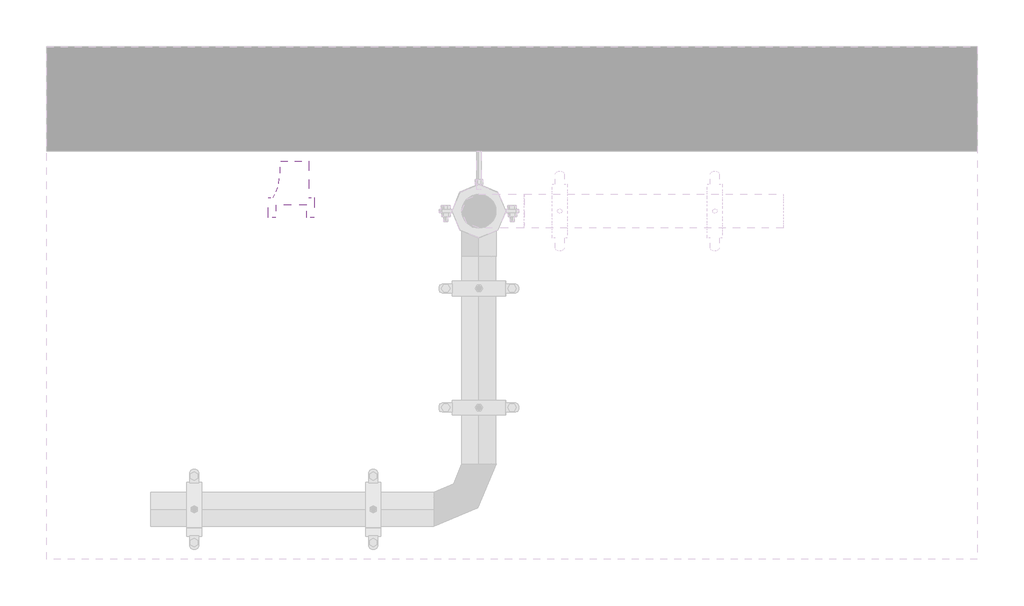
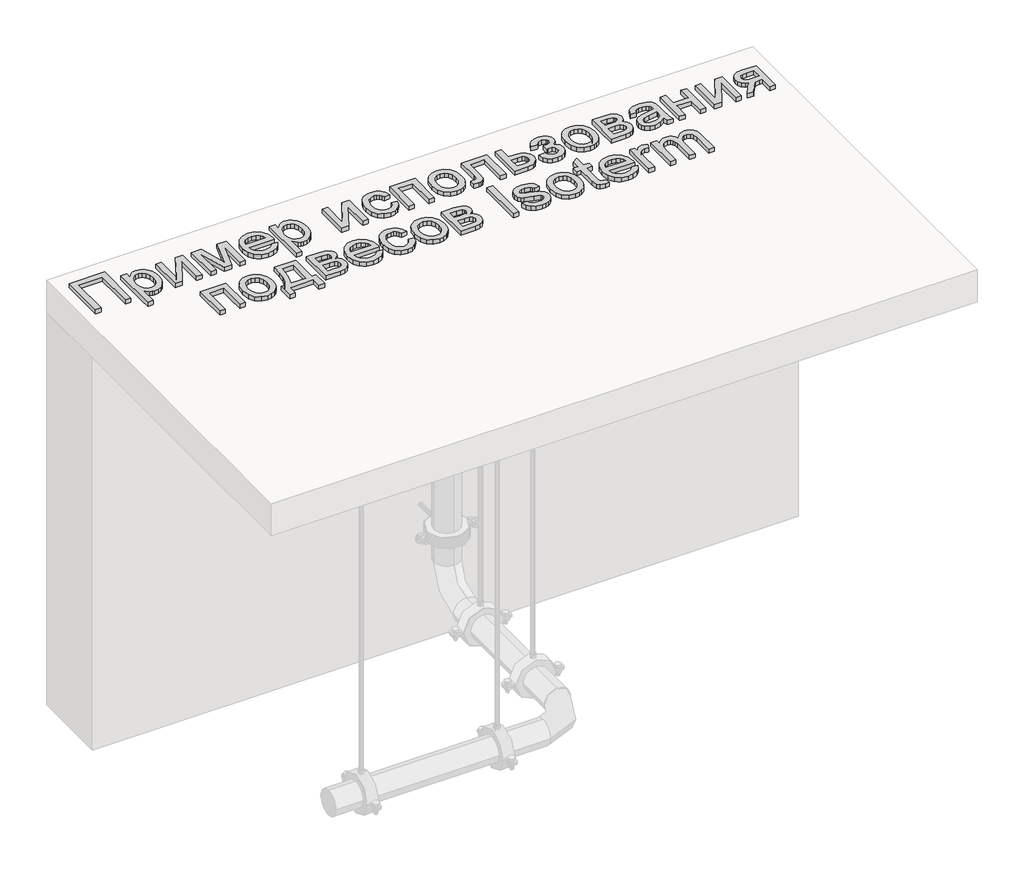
# One storey, part 10 of 10: 1 proxy.
"""IFC4 building model written with IfcOpenShell, lengths in millimetres."""

from ifc_helpers import new_model, si_unit, frame, origin, place, context, project, spatial, polyline, outline, extrude, element, save

model = new_model("IFC4")

# Units and contexts
model_context = context("Model", 3, world=origin())
ifc_project = project(units=[si_unit("LENGTHUNIT", "METRE", prefix="MILLI")], contexts=[model_context])

# Site, building, storey
site = spatial("IfcSite", under=ifc_project)
building = spatial("IfcBuilding", under=site)
storey = spatial("IfcBuildingStorey", under=building, Name="Этаж 01", Elevation=0.0)

# Proxy
placement = place(None, origin())
element("IfcBuildingElementProxy", 1, Name="200 мм Arial", ObjectType="200 мм Arial", at=placement, inside=storey, context=model_context, shape_type="SweptSolid", body=[
    extrude(outline(polyline([(18906.7385239, 683.8856703), (19063.7015085, 683.8856703), (19063.7015085, 482.97305), (19038.587431, 482.97305), (19038.587431, 658.7715928), (18931.8526015, 658.7715928), (18931.8526015, 482.97305), (18906.7385239, 482.97305), (18906.7385239, 683.8856703)])), frame((0.0, 0.0, 2000.0), z_axis=(0.0, 0.0, 1.0), x_axis=(1.0, 0.0, 0.0)), (0.0, 0.0, 1.0), 20.0),
    extrude(outline(polyline([(19104.5118845, 426.4663756), (19104.5118845, 630.5182556), (19129.6259621, 630.5182556), (19129.6259621, 605.8946874), (19146.9899923, 626.7168083), (19157.6830956, 631.9223385), (19170.4363381, 633.6575153), (19187.4202235, 631.2294941), (19202.2703934, 623.9454306), (19214.3614483, 612.2467831), (19223.0679889, 596.5750102), (19228.3287014, 578.0705458), (19230.0822722, 557.8738243), (19228.1018408, 536.3956471), (19222.1605466, 517.1860756), (19212.4484619, 501.219997), (19199.1556592, 489.4722986), (19183.6739585, 482.2434174), (19167.3951802, 479.8337904), (19155.849817, 481.4463398), (19145.5429897, 486.283988), (19129.6259621, 502.5934231), (19129.6259621, 426.4663756), (19104.5118845, 426.4663756)]), holes=[polyline([(19129.6259621, 555.5684304), (19132.3421575, 533.0540523), (19140.4907437, 517.3087029), (19152.5143535, 508.0380766), (19166.85562, 504.9478679), (19181.4298784, 508.1484412), (19193.7600566, 517.7501613), (19202.1661602, 534.0718592), (19204.9681947, 557.4323659), (19202.2336052, 579.8241166), (19194.0298367, 595.7901952), (19182.0246209, 605.3551271), (19167.8856896, 608.5434377), (19153.6915759, 605.152792), (19141.2265077, 594.9808548), (19132.5260985, 578.3464573), (19129.6259621, 555.5684304)])]), frame((0.0, 0.0, 2000.0), z_axis=(0.0, 0.0, 1.0), x_axis=(1.0, 0.0, 0.0)), (0.0, 0.0, 1.0), 20.0),
    extrude(outline(polyline([(19258.3356095, 630.5182556), (19283.449687, 630.5182556), (19283.449687, 517.995416), (19345.1557603, 630.5182556), (19377.6274778, 630.5182556), (19377.6274778, 482.97305), (19352.5134002, 482.97305), (19352.5134002, 594.8091766), (19291.1997344, 482.97305), (19258.3356095, 482.97305), (19258.3356095, 630.5182556)])), frame((0.0, 0.0, 2000.0), z_axis=(0.0, 0.0, 1.0), x_axis=(1.0, 0.0, 0.0)), (0.0, 0.0, 1.0), 20.0),
    extrude(outline(polyline([(19415.2985941, 630.5182556), (19458.5124658, 630.5182556), (19491.8180491, 512.4036097), (19527.7233318, 630.5182556), (19569.122319, 630.5182556), (19569.122319, 482.97305), (19544.0082414, 482.97305), (19544.0082414, 601.774409), (19507.906755, 482.97305), (19474.9445282, 482.97305), (19440.4126716, 607.4643172), (19440.4126716, 482.97305), (19415.2985941, 482.97305), (19415.2985941, 630.5182556)])), frame((0.0, 0.0, 2000.0), z_axis=(0.0, 0.0, 1.0), x_axis=(1.0, 0.0, 0.0)), (0.0, 0.0, 1.0), 20.0),
    extrude(outline(polyline([(19710.0946995, 526.9226857), (19734.7182677, 523.783426), (19725.8461803, 505.2299108), (19711.6888548, 491.3607595), (19692.5651225, 482.7155326), (19668.7938142, 479.8337904), (19639.3264664, 484.8063287), (19616.6526728, 499.7239436), (19602.1949103, 523.6178791), (19597.3756562, 555.5193795), (19602.2439613, 588.493869), (19616.8488765, 613.1542254), (19639.2161018, 628.5316928), (19667.3713372, 633.6575153), (19694.6497871, 628.5439555), (19716.4467953, 613.2032763), (19730.7390108, 588.5919709), (19735.5030827, 555.6665323), (19735.3559299, 548.8975036), (19622.4897337, 548.8975036), (19626.8368727, 530.0987336), (19636.9352334, 516.2786333), (19651.5094918, 507.7805593), (19669.2843235, 504.9478679), (19693.9078917, 510.1963177), (19703.0558907, 517.0021346), (19710.0946995, 526.9226857)]), holes=[polyline([(19622.4897337, 574.0115811), (19710.3890051, 574.0115811), (19706.992228, 587.2798584), (19700.3335639, 596.7712139), (19685.6918605, 605.6003818), (19667.2732353, 608.5434377), (19650.3445322, 606.1951243), (19636.3466222, 599.1501841), (19626.6161435, 588.1689066), (19622.4897337, 574.0115811)])]), frame((0.0, 0.0, 2000.0), z_axis=(0.0, 0.0, 1.0), x_axis=(1.0, 0.0, 0.0)), (0.0, 0.0, 1.0), 20.0),
    extrude(outline(polyline([(19760.6171602, 426.4663756), (19760.6171602, 630.5182556), (19785.7312377, 630.5182556), (19785.7312377, 605.8946874), (19803.0952679, 626.7168083), (19813.7883712, 631.9223385), (19826.5416137, 633.6575153), (19843.5254992, 631.2294941), (19858.3756691, 623.9454306), (19870.466724, 612.2467831), (19879.1732645, 596.5750102), (19884.433977, 578.0705458), (19886.1875479, 557.8738243), (19884.2071165, 536.3956471), (19878.2658223, 517.1860756), (19868.5537376, 501.219997), (19855.2609348, 489.4722986), (19839.7792342, 482.2434174), (19823.5004559, 479.8337904), (19811.9550926, 481.4463398), (19801.6482654, 486.283988), (19785.7312377, 502.5934231), (19785.7312377, 426.4663756), (19760.6171602, 426.4663756)]), holes=[polyline([(19785.7312377, 555.5684304), (19788.4474331, 533.0540523), (19796.5960193, 517.3087029), (19808.6196292, 508.0380766), (19822.9608957, 504.9478679), (19837.535154, 508.1484412), (19849.8653322, 517.7501613), (19858.2714358, 534.0718592), (19861.0734704, 557.4323659), (19858.3388809, 579.8241166), (19850.1351124, 595.7901952), (19838.1298966, 605.3551271), (19823.9909652, 608.5434377), (19809.7968516, 605.152792), (19797.3317833, 594.9808548), (19788.6313741, 578.3464573), (19785.7312377, 555.5684304)])]), frame((0.0, 0.0, 2000.0), z_axis=(0.0, 0.0, 1.0), x_axis=(1.0, 0.0, 0.0)), (0.0, 0.0, 1.0), 20.0),
    extrude(outline(polyline([(19992.9223774, 630.5182556), (20018.036455, 630.5182556), (20018.036455, 517.995416), (20079.7425283, 630.5182556), (20112.2142457, 630.5182556), (20112.2142457, 482.97305), (20087.1001682, 482.97305), (20087.1001682, 594.8091766), (20025.7865023, 482.97305), (19992.9223774, 482.97305), (19992.9223774, 630.5182556)])), frame((0.0, 0.0, 2000.0), z_axis=(0.0, 0.0, 1.0), x_axis=(1.0, 0.0, 0.0)), (0.0, 0.0, 1.0), 20.0),
    extrude(outline(polyline([(20244.0631528, 536.3404648), (20269.1772303, 533.2012051), (20262.1752097, 510.8646366), (20249.017297, 493.9849844), (20230.9420283, 483.3715889), (20209.1879397, 479.8337904), (20182.4735754, 484.7695405), (20161.5840095, 499.5767908), (20148.1011344, 523.6056164), (20143.6068427, 556.2060925), (20145.5259604, 578.5549238), (20151.2833136, 597.9239108), (20160.9708728, 613.565027), (20174.6806085, 624.7302455), (20191.0820141, 631.4256978), (20208.8445831, 633.6575153), (20230.0652429, 630.591832), (20247.0307342, 621.3947821), (20259.2014969, 606.556875), (20266.0379706, 586.5686199), (20240.9238931, 583.4293602), (20236.3682877, 594.3861123), (20229.2742966, 602.2403929), (20220.0343271, 606.9676765), (20209.0407869, 608.5434377), (20192.8110595, 605.4409662), (20179.9290583, 596.1335518), (20171.5229547, 580.1184222), (20168.7209202, 556.8928056), (20171.4616411, 533.3544893), (20179.6838036, 517.2841775), (20192.3328129, 508.0319453), (20208.3540738, 504.9478679), (20221.3587023, 506.873117), (20232.0211488, 512.6488643), (20239.7773276, 522.4222627), (20244.0631528, 536.3404648)])), frame((0.0, 0.0, 2000.0), z_axis=(0.0, 0.0, 1.0), x_axis=(1.0, 0.0, 0.0)), (0.0, 0.0, 1.0), 20.0),
    extrude(outline(polyline([(20291.1520482, 630.5182556), (20404.1653971, 630.5182556), (20404.1653971, 482.97305), (20379.0513196, 482.97305), (20379.0513196, 605.404178), (20316.2661257, 605.404178), (20316.2661257, 482.97305), (20291.1520482, 482.97305), (20291.1520482, 630.5182556)])), frame((0.0, 0.0, 2000.0), z_axis=(0.0, 0.0, 1.0), x_axis=(1.0, 0.0, 0.0)), (0.0, 0.0, 1.0), 20.0),
    extrude(outline(polyline([(20435.557994, 556.7456528), (20440.9903848, 592.3198417), (20447.7808733, 606.1430077), (20457.2875572, 617.3235547), (20477.4229651, 629.5740251), (20501.5314985, 633.6575153), (20527.9147689, 628.684977), (20548.9882759, 613.7673621), (20562.8022448, 590.0818929), (20567.4069011, 558.805792), (20565.3712874, 533.434197), (20559.2644463, 514.1203923), (20549.2641874, 499.6564985), (20535.5483203, 488.8346365), (20519.2572793, 482.0840019), (20501.5314985, 479.8337904), (20474.829397, 484.7879346), (20453.7804155, 499.6503672), (20440.1135994, 523.832477), (20435.557994, 556.7456528)]), holes=[polyline([(20460.6720716, 556.7947037), (20463.5783393, 534.0657278), (20472.2971426, 517.8727887), (20485.4182671, 508.1790981), (20501.5314985, 504.9478679), (20517.5711535, 508.1974922), (20530.6677525, 517.9463651), (20539.3865558, 534.353902), (20542.2928236, 557.5795187), (20539.3681617, 579.646307), (20530.5941761, 595.618517), (20517.479183, 605.3122075), (20501.5314985, 608.5434377), (20485.4182671, 605.3244703), (20472.2971426, 595.6675679), (20463.5783393, 579.5114169), (20460.6720716, 556.7947037)])]), frame((0.0, 0.0, 2000.0), z_axis=(0.0, 0.0, 1.0), x_axis=(1.0, 0.0, 0.0)), (0.0, 0.0, 1.0), 20.0),
    extrude(outline(polyline([(20608.2172771, 630.5182556), (20721.230626, 630.5182556), (20721.230626, 483.1202028), (20696.1165485, 483.1202028), (20696.1165485, 605.404178), (20633.3313546, 605.404178), (20633.3313546, 535.0160896), (20631.6390975, 502.5443722), (20622.3439457, 488.8346365), (20613.048794, 484.4384467), (20600.3691279, 482.97305), (20579.9639399, 484.2483743), (20579.9639399, 508.0871276), (20591.1966034, 508.0871276), (20602.5518944, 509.632232), (20607.0891056, 514.5373252), (20608.2172771, 536.4385667), (20608.2172771, 630.5182556)])), frame((0.0, 0.0, 2000.0), z_axis=(0.0, 0.0, 1.0), x_axis=(1.0, 0.0, 0.0)), (0.0, 0.0, 1.0), 20.0),
    extrude(outline(polyline([(20758.9017423, 630.5182556), (20784.0158199, 630.5182556), (20784.0158199, 577.1508408), (20812.9558701, 577.1508408), (20838.0454222, 574.0054497), (20856.6112002, 564.5692766), (20868.0891185, 549.6026107), (20871.9150912, 529.8657417), (20868.6593356, 511.8947062), (20858.8920686, 496.7318367), (20841.9633655, 486.4127467), (20817.2233013, 482.97305), (20758.9017423, 482.97305), (20758.9017423, 630.5182556)]), holes=[polyline([(20784.0158199, 508.0871276), (20807.4621657, 508.0871276), (20825.6539303, 509.4053714), (20837.7511166, 513.3601028), (20844.5385394, 520.1107375), (20846.8010137, 529.8166908), (20845.1271506, 538.0204593), (20840.1055614, 545.2677346), (20829.345013, 550.3445061), (20810.4542726, 552.0367633), (20784.0158199, 552.0367633), (20784.0158199, 508.0871276)])]), frame((0.0, 0.0, 2000.0), z_axis=(0.0, 0.0, 1.0), x_axis=(1.0, 0.0, 0.0)), (0.0, 0.0, 1.0), 20.0),
    extrude(outline(polyline([(20937.8395448, 548.8975036), (20937.8395448, 574.0115811), (20957.6561216, 574.9925998), (20967.6625118, 580.2165241), (20972.3714014, 591.1303566), (20970.7956402, 598.2733987), (20966.0683565, 603.8100227), (20949.8079723, 608.5434377), (20933.0080279, 603.8345482), (20922.1432463, 589.7078796), (20893.8899091, 592.8471393), (20901.382439, 610.7016788), (20912.7745182, 623.4549213), (20928.0661464, 631.1068668), (20947.2573238, 633.6575153), (20968.251123, 630.5489124), (20984.1436252, 621.2231038), (20994.1500155, 607.5808132), (20997.4854789, 591.5227641), (20992.7398012, 575.9245675), (20978.502768, 563.858038), (20995.1065087, 548.2107905), (21000.6247386, 525.6964124), (20997.1237283, 507.2103422), (20986.6206973, 492.5625074), (20969.8268843, 483.0159696), (20947.4535276, 479.8337904), (20925.5706802, 482.7768463), (20908.8259181, 491.6060142), (20897.2192411, 506.321294), (20890.7506494, 526.9226857), (20919.0039866, 530.0619454), (20923.2346296, 519.4424185), (20930.3347521, 511.5206929), (20939.482751, 506.5910741), (20949.8570233, 504.9478679), (20959.9615154, 506.5236291), (20968.2020721, 511.2509127), (20973.6835138, 518.430743), (20975.5106611, 527.3641441), (20970.9734498, 540.558845), (20961.3104161, 547.6221793), (20942.744638, 549.0446564), (20937.8395448, 548.8975036)])), frame((0.0, 0.0, 2000.0), z_axis=(0.0, 0.0, 1.0), x_axis=(1.0, 0.0, 0.0)), (0.0, 0.0, 1.0), 20.0),
    extrude(outline(polyline([(21025.7388162, 556.7456528), (21031.1712069, 592.3198417), (21037.9616954, 606.1430077), (21047.4683793, 617.3235547), (21067.6037872, 629.5740251), (21091.7123206, 633.6575153), (21118.095591, 628.684977), (21139.169098, 613.7673621), (21152.9830669, 590.0818929), (21157.5877232, 558.805792), (21155.5521095, 533.434197), (21149.4452684, 514.1203923), (21139.4450095, 499.6564985), (21125.7291424, 488.8346365), (21109.4381014, 482.0840019), (21091.7123206, 479.8337904), (21065.0102191, 484.7879346), (21043.9612376, 499.6503672), (21030.2944215, 523.832477), (21025.7388162, 556.7456528)]), holes=[polyline([(21050.8528937, 556.7947037), (21053.7591615, 534.0657278), (21062.4779647, 517.8727887), (21075.5990892, 508.1790981), (21091.7123206, 504.9478679), (21107.7519756, 508.1974922), (21120.8485746, 517.9463651), (21129.5673779, 534.353902), (21132.4736457, 557.5795187), (21129.5489838, 579.646307), (21120.7749982, 595.618517), (21107.6600051, 605.3122075), (21091.7123206, 608.5434377), (21075.5990892, 605.3244703), (21062.4779647, 595.6675679), (21053.7591615, 579.5114169), (21050.8528937, 556.7947037)])]), frame((0.0, 0.0, 2000.0), z_axis=(0.0, 0.0, 1.0), x_axis=(1.0, 0.0, 0.0)), (0.0, 0.0, 1.0), 20.0),
    extrude(outline(polyline([(21185.8410605, 630.5182556), (21241.1705125, 630.5182556), (21271.5085144, 627.1582667), (21288.578239, 614.8464826), (21293.930922, 605.0056392), (21295.7151497, 593.3866995), (21291.3986676, 575.949093), (21278.4001704, 563.5146815), (21287.6953222, 558.2968886), (21295.2736913, 549.9030477), (21300.3136746, 538.9953465), (21301.9936691, 526.2359727), (21297.7385007, 507.0938462), (21287.6217458, 493.6171024), (21271.6066163, 485.6340631), (21249.6563239, 482.97305), (21185.8410605, 482.97305), (21185.8410605, 630.5182556)]), holes=[polyline([(21210.955138, 574.0115811), (21235.7749099, 574.0115811), (21256.2536743, 575.2869054), (21266.2110137, 580.3882024), (21270.6010721, 589.6097777), (21268.675823, 597.1023077), (21262.9000757, 601.9215618), (21236.5597249, 605.404178), (21210.955138, 605.404178), (21210.955138, 574.0115811)]), polyline([(21210.955138, 508.0871276), (21241.7591237, 508.0871276), (21258.5468054, 509.2214304), (21269.0804932, 512.6243389), (21274.7336132, 518.8108877), (21276.8795915, 528.2961118), (21272.5876349, 540.3871668), (21261.4040223, 547.4259756), (21239.3065771, 548.8975036), (21210.955138, 548.8975036), (21210.955138, 508.0871276)])]), frame((0.0, 0.0, 2000.0), z_axis=(0.0, 0.0, 1.0), x_axis=(1.0, 0.0, 0.0)), (0.0, 0.0, 1.0), 20.0),
    extrude(outline(polyline([(21427.5640568, 501.8086082), (21403.2102687, 484.7879346), (21376.3058321, 479.8337904), (21355.3181643, 482.8136345), (21339.8364636, 491.753167), (21330.2899259, 505.3280126), (21327.1077466, 522.2137962), (21331.914738, 542.0794239), (21344.5453532, 556.5003981), (21362.1301125, 564.7409548), (21383.8596757, 568.5178767), (21427.416904, 577.1508408), (21427.5640568, 582.7426471), (21425.8350114, 593.9507853), (21420.6478752, 601.2838997), (21409.0473297, 606.7285532), (21392.8850473, 608.5434377), (21377.9245129, 607.3355585), (21367.4766642, 603.7119209), (21360.3520162, 597.0103372), (21355.3610838, 586.5686199), (21330.2470063, 589.7078796), (21341.1117879, 614.2333459), (21350.3701514, 622.4861653), (21362.9885039, 628.6052692), (21396.1224089, 633.6575153), (21426.5585126, 629.1938804), (21443.7508645, 617.9857423), (21451.451861, 600.9405432), (21452.6781343, 578.9657253), (21452.6781343, 547.7202812), (21453.9534585, 504.0894766), (21458.9566537, 482.97305), (21433.8425761, 482.97305), (21427.5640568, 501.8086082)]), holes=[polyline([(21427.5640568, 552.0367633), (21387.0479863, 544.3357668), (21365.4410505, 540.2645394), (21355.6553894, 533.6426635), (21352.2218241, 523.9796298), (21354.0918909, 516.5116253), (21359.7020914, 510.3925214), (21368.9297981, 506.3090313), (21381.6523838, 504.9478679), (21395.1413902, 506.4500527), (21407.0607669, 510.9566071), (21423.4437784, 525.5002087), (21427.416904, 544.924378), (21427.5640568, 552.0367633)])]), frame((0.0, 0.0, 2000.0), z_axis=(0.0, 0.0, 1.0), x_axis=(1.0, 0.0, 0.0)), (0.0, 0.0, 1.0), 20.0),
    extrude(outline(polyline([(21487.2099909, 630.5182556), (21512.3240684, 630.5182556), (21512.3240684, 574.0115811), (21578.248522, 574.0115811), (21578.248522, 630.5182556), (21603.3625995, 630.5182556), (21603.3625995, 482.97305), (21578.248522, 482.97305), (21578.248522, 548.8975036), (21512.3240684, 548.8975036), (21512.3240684, 482.97305), (21487.2099909, 482.97305), (21487.2099909, 630.5182556)])), frame((0.0, 0.0, 2000.0), z_axis=(0.0, 0.0, 1.0), x_axis=(1.0, 0.0, 0.0)), (0.0, 0.0, 1.0), 20.0),
    extrude(outline(polyline([(21641.0337158, 630.5182556), (21666.1477934, 630.5182556), (21666.1477934, 517.995416), (21727.8538667, 630.5182556), (21760.3255841, 630.5182556), (21760.3255841, 482.97305), (21735.2115066, 482.97305), (21735.2115066, 594.8091766), (21673.8978407, 482.97305), (21641.0337158, 482.97305), (21641.0337158, 630.5182556)])), frame((0.0, 0.0, 2000.0), z_axis=(0.0, 0.0, 1.0), x_axis=(1.0, 0.0, 0.0)), (0.0, 0.0, 1.0), 20.0),
    extrude(outline(polyline([(21911.0100493, 630.5182556), (21911.0100493, 482.97305), (21885.8959718, 482.97305), (21885.8959718, 539.4797245), (21872.2107616, 539.4797245), (21853.5714072, 536.2914139), (21836.0602242, 514.8561563), (21816.0474437, 482.97305), (21787.0092915, 482.97305), (21812.2214709, 523.2929167), (21823.3560326, 537.7629419), (21833.6076776, 544.188614), (21816.4398511, 549.4493266), (21804.3733217, 559.4434541), (21797.236411, 572.7362569), (21794.8574407, 587.8929951), (21798.107065, 605.085347), (21807.8559379, 618.6969808), (21823.7607028, 627.5629369), (21845.4780033, 630.5182556), (21911.0100493, 630.5182556)]), holes=[polyline([(21885.8959718, 605.404178), (21852.7865922, 605.404178), (21835.6862108, 603.9510442), (21825.9802575, 599.5916425), (21819.9715183, 585.9800087), (21822.1849416, 576.4089455), (21828.8252116, 569.7686754), (21841.0940762, 565.8875204), (21860.1932831, 564.593802), (21885.8959718, 564.593802), (21885.8959718, 605.404178)])]), frame((0.0, 0.0, 2000.0), z_axis=(0.0, 0.0, 1.0), x_axis=(1.0, 0.0, 0.0)), (0.0, 0.0, 1.0), 20.0),
    extrude(outline(polyline([(19314.8422839, 386.5686199), (19427.8556328, 386.5686199), (19427.8556328, 239.0234144), (19402.7415553, 239.0234144), (19402.7415553, 361.4545423), (19339.9563615, 361.4545423), (19339.9563615, 239.0234144), (19314.8422839, 239.0234144), (19314.8422839, 386.5686199)])), frame((0.0, 0.0, 2000.0), z_axis=(0.0, 0.0, 1.0), x_axis=(1.0, 0.0, 0.0)), (0.0, 0.0, 1.0), 20.0),
    extrude(outline(polyline([(19459.2482298, 312.7960171), (19464.6806206, 348.3702061), (19471.471109, 362.193372), (19480.9777929, 373.373919), (19501.1132008, 385.6243894), (19525.2217342, 389.7078796), (19551.6050046, 384.7353413), (19572.6785116, 369.8177264), (19586.4924805, 346.1322572), (19591.0971368, 314.8561563), (19589.0615231, 289.4845614), (19582.954682, 270.1707566), (19572.9544231, 255.7068628), (19559.238556, 244.8850008), (19542.947515, 238.1343662), (19525.2217342, 235.8841547), (19498.5196327, 240.8382989), (19477.4706513, 255.7007315), (19463.8038351, 279.8828413), (19459.2482298, 312.7960171)]), holes=[polyline([(19484.3623073, 312.8450681), (19487.2685751, 290.1160921), (19495.9873783, 273.923153), (19509.1085028, 264.2294624), (19525.2217342, 260.9982322), (19541.2613892, 264.2478565), (19554.3579882, 273.9967294), (19563.0767915, 290.4042663), (19565.9830593, 313.629883), (19563.0583974, 335.6966713), (19554.2844118, 351.6688813), (19541.1694187, 361.3625718), (19525.2217342, 364.593802), (19509.1085028, 361.3748346), (19495.9873783, 351.7179322), (19487.2685751, 335.5617813), (19484.3623073, 312.8450681)])]), frame((0.0, 0.0, 2000.0), z_axis=(0.0, 0.0, 1.0), x_axis=(1.0, 0.0, 0.0)), (0.0, 0.0, 1.0), 20.0),
    extrude(outline(polyline([(19641.3252919, 386.5686199), (19735.5030827, 386.5686199), (19735.5030827, 264.1374919), (19754.3386408, 264.1374919), (19754.3386408, 198.2130384), (19729.2245633, 198.2130384), (19729.2245633, 239.0234144), (19625.6289934, 239.0234144), (19625.6289934, 198.2130384), (19600.5149159, 198.2130384), (19600.5149159, 264.1374919), (19616.2112144, 264.1374919), (19627.6216876, 284.7572777), (19635.6108582, 312.0357277), (19640.1787264, 345.9728417), (19641.3252919, 386.5686199)]), holes=[polyline([(19663.3001097, 361.4545423), (19657.4139978, 304.2366294), (19644.4645516, 264.1374919), (19710.3890051, 264.1374919), (19710.3890051, 361.4545423), (19663.3001097, 361.4545423)])]), frame((0.0, 0.0, 2000.0), z_axis=(0.0, 0.0, 1.0), x_axis=(1.0, 0.0, 0.0)), (0.0, 0.0, 1.0), 20.0),
    extrude(outline(polyline([(19782.5919781, 386.5686199), (19837.9214301, 386.5686199), (19868.259432, 383.208631), (19885.3291566, 370.8968469), (19890.6818396, 361.0560035), (19892.4660673, 349.4370638), (19888.1495852, 331.9994573), (19875.151088, 319.5650458), (19884.4462398, 314.3472529), (19892.0246089, 305.953412), (19897.0645922, 295.0457109), (19898.7445867, 282.286337), (19894.4894182, 263.1442105), (19884.3726634, 249.6674667), (19868.3575339, 241.6844275), (19846.4072415, 239.0234144), (19782.5919781, 239.0234144), (19782.5919781, 386.5686199)]), holes=[polyline([(19807.7060556, 330.0619454), (19832.5258275, 330.0619454), (19853.0045919, 331.3372697), (19862.9619313, 336.4385667), (19867.3519897, 345.660142), (19865.4267406, 353.152672), (19859.6509933, 357.9719261), (19833.3106425, 361.4545423), (19807.7060556, 361.4545423), (19807.7060556, 330.0619454)]), polyline([(19807.7060556, 264.1374919), (19838.5100413, 264.1374919), (19855.297723, 265.2717947), (19865.8314108, 268.6747032), (19871.4845308, 274.861252), (19873.6305091, 284.3464762), (19869.3385525, 296.4375311), (19858.1549399, 303.4763399), (19836.0574947, 304.9478679), (19807.7060556, 304.9478679), (19807.7060556, 264.1374919)])]), frame((0.0, 0.0, 2000.0), z_axis=(0.0, 0.0, 1.0), x_axis=(1.0, 0.0, 0.0)), (0.0, 0.0, 1.0), 20.0),
    extrude(outline(polyline([(20033.4384478, 282.97305), (20058.062016, 279.8337904), (20049.1899286, 261.2802751), (20035.0326031, 247.4111238), (20015.9088708, 238.765897), (19992.1375625, 235.8841547), (19962.6702147, 240.856693), (19939.9964211, 255.7743079), (19925.5386586, 279.6682435), (19920.7194045, 311.5697438), (19925.5877096, 344.5442333), (19940.1926248, 369.2045897), (19962.5598501, 384.5820571), (19990.7150855, 389.7078796), (20017.9935354, 384.5943198), (20039.7905436, 369.2536406), (20054.0827591, 344.6423352), (20058.846831, 311.7168966), (20058.6996782, 304.9478679), (19945.833482, 304.9478679), (19950.180621, 286.1490979), (19960.2789817, 272.3289976), (19974.8532401, 263.8309236), (19992.6280718, 260.9982322), (20017.25164, 266.246682), (20026.399639, 273.0524989), (20033.4384478, 282.97305)]), holes=[polyline([(19945.833482, 330.0619454), (20033.7327534, 330.0619454), (20030.3359763, 343.3302227), (20023.6773122, 352.8215782), (20009.0356088, 361.6507461), (19990.6169836, 364.593802), (19973.6882804, 362.2454886), (19959.6903705, 355.2005484), (19949.9598918, 344.2192709), (19945.833482, 330.0619454)])]), frame((0.0, 0.0, 2000.0), z_axis=(0.0, 0.0, 1.0), x_axis=(1.0, 0.0, 0.0)), (0.0, 0.0, 1.0), 20.0),
    extrude(outline(polyline([(20178.1386993, 292.3908291), (20203.2527768, 289.2515694), (20196.2507562, 266.915001), (20183.0928435, 250.0353487), (20165.0175748, 239.4219532), (20143.2634861, 235.8841547), (20116.5491219, 240.8199048), (20095.6595559, 255.6271551), (20082.1766808, 279.6559807), (20077.6823891, 312.2564569), (20079.6015069, 334.6052881), (20085.3588601, 353.9742751), (20095.0464193, 369.6153913), (20108.756155, 380.7806098), (20125.1575606, 387.4760621), (20142.9201296, 389.7078796), (20164.1407893, 386.6421963), (20181.1062807, 377.4451464), (20193.2770434, 362.6072393), (20200.1135171, 342.6189842), (20174.9994396, 339.4797245), (20170.4438342, 350.4364766), (20163.3498431, 358.2907572), (20154.1098736, 363.0180408), (20143.1163333, 364.593802), (20126.886606, 361.4913305), (20114.0046048, 352.1839161), (20105.5985012, 336.1687865), (20102.7964667, 312.9431699), (20105.5371875, 289.4048536), (20113.7593501, 273.3345418), (20126.4083594, 264.0823096), (20142.4296203, 260.9982322), (20155.4342488, 262.9234813), (20166.0966953, 268.6992286), (20173.852874, 278.472627), (20178.1386993, 292.3908291)])), frame((0.0, 0.0, 2000.0), z_axis=(0.0, 0.0, 1.0), x_axis=(1.0, 0.0, 0.0)), (0.0, 0.0, 1.0), 20.0),
    extrude(outline(polyline([(20218.9490753, 312.7960171), (20224.3814661, 348.3702061), (20231.1719546, 362.193372), (20240.6786384, 373.373919), (20260.8140463, 385.6243894), (20284.9225797, 389.7078796), (20311.3058502, 384.7353413), (20332.3793571, 369.8177264), (20346.193326, 346.1322572), (20350.7979823, 314.8561563), (20348.7623686, 289.4845614), (20342.6555275, 270.1707566), (20332.6552686, 255.7068628), (20318.9394016, 244.8850008), (20302.6483605, 238.1343662), (20284.9225797, 235.8841547), (20258.2204782, 240.8382989), (20237.1714968, 255.7007315), (20223.5046806, 279.8828413), (20218.9490753, 312.7960171)]), holes=[polyline([(20244.0631528, 312.8450681), (20246.9694206, 290.1160921), (20255.6882238, 273.923153), (20268.8093483, 264.2294624), (20284.9225797, 260.9982322), (20300.9622347, 264.2478565), (20314.0588337, 273.9967294), (20322.777637, 290.4042663), (20325.6839048, 313.629883), (20322.7592429, 335.6966713), (20313.9852573, 351.6688813), (20300.8702642, 361.3625718), (20284.9225797, 364.593802), (20268.8093483, 361.3748346), (20255.6882238, 351.7179322), (20246.9694206, 335.5617813), (20244.0631528, 312.8450681)])]), frame((0.0, 0.0, 2000.0), z_axis=(0.0, 0.0, 1.0), x_axis=(1.0, 0.0, 0.0)), (0.0, 0.0, 1.0), 20.0),
    extrude(outline(polyline([(20379.0513196, 386.5686199), (20434.3807716, 386.5686199), (20464.7187735, 383.208631), (20481.7884981, 370.8968469), (20487.1411811, 361.0560035), (20488.9254088, 349.4370638), (20484.6089267, 331.9994573), (20471.6104295, 319.5650458), (20480.9055813, 314.3472529), (20488.4839504, 305.953412), (20493.5239337, 295.0457109), (20495.2039282, 282.286337), (20490.9487598, 263.1442105), (20480.8320049, 249.6674667), (20464.8168754, 241.6844275), (20442.866583, 239.0234144), (20379.0513196, 239.0234144), (20379.0513196, 386.5686199)]), holes=[polyline([(20404.1653971, 330.0619454), (20428.985169, 330.0619454), (20449.4639334, 331.3372697), (20459.4212728, 336.4385667), (20463.8113313, 345.660142), (20461.8860821, 353.152672), (20456.1103348, 357.9719261), (20429.769984, 361.4545423), (20404.1653971, 361.4545423), (20404.1653971, 330.0619454)]), polyline([(20404.1653971, 264.1374919), (20434.9693828, 264.1374919), (20451.7570645, 265.2717947), (20462.2907523, 268.6747032), (20467.9438723, 274.861252), (20470.0898506, 284.3464762), (20465.797894, 296.4375311), (20454.6142814, 303.4763399), (20432.5168362, 304.9478679), (20404.1653971, 304.9478679), (20404.1653971, 264.1374919)])]), frame((0.0, 0.0, 2000.0), z_axis=(0.0, 0.0, 1.0), x_axis=(1.0, 0.0, 0.0)), (0.0, 0.0, 1.0), 20.0),
    extrude(outline(polyline([(20611.3565368, 239.0234144), (20611.3565368, 439.9360347), (20636.4706143, 439.9360347), (20636.4706143, 239.0234144), (20611.3565368, 239.0234144)])), frame((0.0, 0.0, 2000.0), z_axis=(0.0, 0.0, 1.0), x_axis=(1.0, 0.0, 0.0)), (0.0, 0.0, 1.0), 20.0),
    extrude(outline(polyline([(20674.1417306, 282.97305), (20699.2558082, 286.1123097), (20703.216671, 275.3701555), (20710.8808792, 267.4729553), (20722.2974838, 262.616913), (20737.5155357, 260.9982322), (20752.5496465, 262.4820229), (20763.1201225, 266.9333951), (20769.3741164, 273.3835927), (20771.4587811, 280.8638599), (20769.3618537, 287.2650067), (20763.0710716, 292.1455745), (20737.2212301, 299.3070106), (20699.402961, 311.5942693), (20689.8318977, 317.7685554), (20682.8973221, 325.9416671), (20677.2809903, 346.1997023), (20681.7936761, 364.9126331), (20694.1054602, 379.21098), (20710.0715388, 386.6421963), (20731.6784747, 389.7078796), (20762.2372057, 384.7782608), (20773.6660731, 378.9779881), (20781.6613751, 371.4364072), (20790.2943392, 348.8975036), (20765.1802617, 345.7582439), (20762.0103452, 353.6615754), (20755.7379572, 359.6151324), (20733.640512, 364.593802), (20719.2195378, 363.4043169), (20709.605555, 359.8358616), (20704.1976896, 354.6855136), (20702.3950679, 348.7503508), (20705.3871748, 341.4417618), (20714.7559029, 335.8990064), (20736.3873642, 330.5524548), (20773.2491401, 318.73118), (20790.3679156, 305.3402754), (20795.0216229, 295.4933006), (20796.5728586, 283.5126103), (20794.7518427, 271.1272498), (20789.2887951, 259.4776533), (20780.3921822, 249.4773944), (20768.2704705, 242.0400467), (20753.6287671, 237.4231277), (20737.1721791, 235.8841547), (20711.8496351, 238.8517361), (20693.3696962, 247.7544804), (20681.0333867, 262.4942856), (20674.1417306, 282.97305)])), frame((0.0, 0.0, 2000.0), z_axis=(0.0, 0.0, 1.0), x_axis=(1.0, 0.0, 0.0)), (0.0, 0.0, 1.0), 20.0),
    extrude(outline(polyline([(20818.5476765, 312.7960171), (20823.9800673, 348.3702061), (20830.7705558, 362.193372), (20840.2772396, 373.373919), (20860.4126475, 385.6243894), (20884.5211809, 389.7078796), (20910.9044514, 384.7353413), (20931.9779583, 369.8177264), (20945.7919272, 346.1322572), (20950.3965835, 314.8561563), (20948.3609698, 289.4845614), (20942.2541287, 270.1707566), (20932.2538698, 255.7068628), (20918.5380028, 244.8850008), (20902.2469617, 238.1343662), (20884.5211809, 235.8841547), (20857.8190795, 240.8382989), (20836.770098, 255.7007315), (20823.1032818, 279.8828413), (20818.5476765, 312.7960171)]), holes=[polyline([(20843.661754, 312.8450681), (20846.5680218, 290.1160921), (20855.2868251, 273.923153), (20868.4079495, 264.2294624), (20884.5211809, 260.9982322), (20900.5608359, 264.2478565), (20913.657435, 273.9967294), (20922.3762382, 290.4042663), (20925.282506, 313.629883), (20922.3578441, 335.6966713), (20913.5838586, 351.6688813), (20900.4688654, 361.3625718), (20884.5211809, 364.593802), (20868.4079495, 361.3748346), (20855.2868251, 351.7179322), (20846.5680218, 335.5617813), (20843.661754, 312.8450681)])]), frame((0.0, 0.0, 2000.0), z_axis=(0.0, 0.0, 1.0), x_axis=(1.0, 0.0, 0.0)), (0.0, 0.0, 1.0), 20.0),
    extrude(outline(polyline([(21032.0173355, 259.9681626), (21035.1565952, 238.2876504), (21016.370088, 235.8841547), (20995.3272379, 240.0534839), (20984.8303383, 250.9918419), (20981.7891805, 279.4904338), (20981.7891805, 361.4545423), (20962.9536223, 361.4545423), (20962.9536223, 386.5686199), (20981.7891805, 386.5686199), (20981.7891805, 422.4248517), (21006.903258, 437.1891824), (21006.903258, 386.5686199), (21032.0173355, 386.5686199), (21032.0173355, 361.4545423), (21006.903258, 361.4545423), (21006.903258, 280.2261978), (21008.2276332, 267.2767516), (21012.5195898, 262.6904894), (21021.0789775, 260.9982322), (21032.0173355, 259.9681626)])), frame((0.0, 0.0, 2000.0), z_axis=(0.0, 0.0, 1.0), x_axis=(1.0, 0.0, 0.0)), (0.0, 0.0, 1.0), 20.0),
    extrude(outline(polyline([(21160.4326773, 282.97305), (21185.0562455, 279.8337904), (21176.1841581, 261.2802751), (21162.0268326, 247.4111238), (21142.9031002, 238.765897), (21119.131792, 235.8841547), (21089.6644442, 240.856693), (21066.9906505, 255.7743079), (21052.5328881, 279.6682435), (21047.713634, 311.5697438), (21052.5819391, 344.5442333), (21067.1868543, 369.2045897), (21089.5540796, 384.5820571), (21117.7093149, 389.7078796), (21144.9877649, 384.5943198), (21166.7847731, 369.2536406), (21181.0769886, 344.6423352), (21185.8410605, 311.7168966), (21185.6939077, 304.9478679), (21072.8277115, 304.9478679), (21077.1748504, 286.1490979), (21087.2732112, 272.3289976), (21101.8474696, 263.8309236), (21119.6223013, 260.9982322), (21144.2458695, 266.246682), (21153.3938685, 273.0524989), (21160.4326773, 282.97305)]), holes=[polyline([(21072.8277115, 330.0619454), (21160.7269829, 330.0619454), (21157.3302058, 343.3302227), (21150.6715417, 352.8215782), (21136.0298383, 361.6507461), (21117.6112131, 364.593802), (21100.6825099, 362.2454886), (21086.6846, 355.2005484), (21076.9541212, 344.2192709), (21072.8277115, 330.0619454)])]), frame((0.0, 0.0, 2000.0), z_axis=(0.0, 0.0, 1.0), x_axis=(1.0, 0.0, 0.0)), (0.0, 0.0, 1.0), 20.0),
    extrude(outline(polyline([(21210.955138, 239.0234144), (21210.955138, 386.5686199), (21232.9299558, 386.5686199), (21232.9299558, 364.7409548), (21248.5281524, 384.8518372), (21264.2244509, 389.7078796), (21276.7324387, 387.7703677), (21289.4366303, 381.9578322), (21281.0489208, 359.4434541), (21263.390585, 364.593802), (21249.19034, 359.6396578), (21240.1404429, 345.9053967), (21236.0692155, 316.5729389), (21236.0692155, 239.0234144), (21210.955138, 239.0234144)])), frame((0.0, 0.0, 2000.0), z_axis=(0.0, 0.0, 1.0), x_axis=(1.0, 0.0, 0.0)), (0.0, 0.0, 1.0), 20.0),
    extrude(outline(polyline([(21305.1329288, 239.0234144), (21305.1329288, 386.5686199), (21330.2470063, 386.5686199), (21330.2470063, 362.2884082), (21337.8008499, 373.441364), (21347.5129346, 382.1785614), (21359.0521665, 387.82555), (21372.0874519, 389.7078796), (21386.054705, 387.7887618), (21397.2505803, 382.0314086), (21405.6137644, 372.8159646), (21411.0829434, 360.5225746), (21420.2370737, 373.2911455), (21430.678791, 382.4115533), (21442.4080953, 387.883798), (21455.4249865, 389.7078796), (21474.3034642, 386.6728531), (21488.264586, 377.5677737), (21496.8914187, 362.1473868), (21499.7670297, 340.1664376), (21499.7670297, 239.0234144), (21474.6529521, 239.0234144), (21474.6529521, 329.3752324), (21472.3230328, 350.3445061), (21463.8862724, 360.6697274), (21449.5388746, 364.593802), (21435.9333721, 362.0799417), (21424.84173, 354.5383608), (21417.465696, 341.4540245), (21415.007018, 322.3118981), (21415.007018, 239.0234144), (21389.8929404, 239.0234144), (21389.8929404, 332.1711355), (21388.4398066, 346.3713805), (21384.0804049, 356.5003981), (21376.4100653, 362.5704511), (21365.0241176, 364.593802), (21346.4338141, 359.1981994), (21339.0761742, 352.5517981), (21334.072979, 343.4037991), (21330.2470063, 313.4336792), (21330.2470063, 239.0234144), (21305.1329288, 239.0234144)])), frame((0.0, 0.0, 2000.0), z_axis=(0.0, 0.0, 1.0), x_axis=(1.0, 0.0, 0.0)), (0.0, 0.0, 1.0), 20.0),
])

save(model, "model.ifc")
